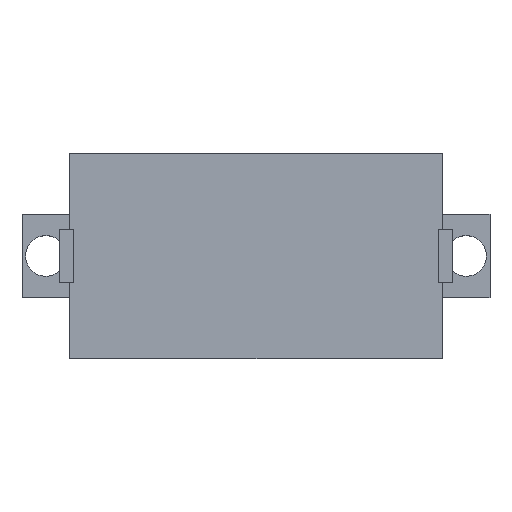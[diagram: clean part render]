
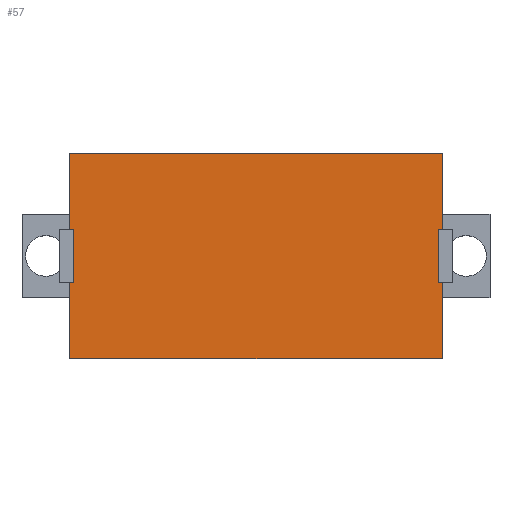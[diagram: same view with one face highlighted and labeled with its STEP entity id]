
A CAD part, top view. The second image highlights one B-rep face of the part: STEP entity #57.
In plain terms, the highlighted planar face has unit normal (0, 0, 1).
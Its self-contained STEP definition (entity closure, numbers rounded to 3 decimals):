
#21 = EDGE_CURVE('',#22,#24,#26,.T.);
#22 = VERTEX_POINT('',#23);
#23 = CARTESIAN_POINT('',(-15.6,-3.225,157.225));
#24 = VERTEX_POINT('',#25);
#25 = CARTESIAN_POINT('',(-15.6,1.875,157.225));
#26 = LINE('',#27,#28);
#27 = CARTESIAN_POINT('',(-15.6,-3.225,157.225));
#28 = VECTOR('',#29,1.);
#29 = DIRECTION('',(0.,1.,0.));
#57 = ADVANCED_FACE('',(#58),#179,.T.);
#58 = FACE_BOUND('',#59,.T.);
#59 = EDGE_LOOP('',(#60,#61,#69,#77,#85,#93,#101,#109,#117,#125,#133,
    #141,#149,#157,#165,#173));
#60 = ORIENTED_EDGE('',*,*,#21,.F.);
#61 = ORIENTED_EDGE('',*,*,#62,.T.);
#62 = EDGE_CURVE('',#22,#63,#65,.T.);
#63 = VERTEX_POINT('',#64);
#64 = CARTESIAN_POINT('',(15.6,-3.225,157.225));
#65 = LINE('',#66,#67);
#66 = CARTESIAN_POINT('',(-15.6,-3.225,157.225));
#67 = VECTOR('',#68,1.);
#68 = DIRECTION('',(1.,0.,0.));
#69 = ORIENTED_EDGE('',*,*,#70,.T.);
#70 = EDGE_CURVE('',#63,#71,#73,.T.);
#71 = VERTEX_POINT('',#72);
#72 = CARTESIAN_POINT('',(15.6,1.875,157.225));
#73 = LINE('',#74,#75);
#74 = CARTESIAN_POINT('',(15.6,-3.225,157.225));
#75 = VECTOR('',#76,1.);
#76 = DIRECTION('',(0.,1.,0.));
#77 = ORIENTED_EDGE('',*,*,#78,.T.);
#78 = EDGE_CURVE('',#71,#79,#81,.T.);
#79 = VERTEX_POINT('',#80);
#80 = CARTESIAN_POINT('',(15.6,3.135,157.225));
#81 = LINE('',#82,#83);
#82 = CARTESIAN_POINT('',(15.6,-3.225,157.225));
#83 = VECTOR('',#84,1.);
#84 = DIRECTION('',(0.,1.,0.));
#85 = ORIENTED_EDGE('',*,*,#86,.T.);
#86 = EDGE_CURVE('',#79,#87,#89,.T.);
#87 = VERTEX_POINT('',#88);
#88 = CARTESIAN_POINT('',(15.3,3.135,157.225));
#89 = LINE('',#90,#91);
#90 = CARTESIAN_POINT('',(-0.15,3.135,157.225));
#91 = VECTOR('',#92,1.);
#92 = DIRECTION('',(-1.,0.,0.));
#93 = ORIENTED_EDGE('',*,*,#94,.T.);
#94 = EDGE_CURVE('',#87,#95,#97,.T.);
#95 = VERTEX_POINT('',#96);
#96 = CARTESIAN_POINT('',(15.3,7.615,157.225));
#97 = LINE('',#98,#99);
#98 = CARTESIAN_POINT('',(15.3,-0.045,157.225));
#99 = VECTOR('',#100,1.);
#100 = DIRECTION('',(0.,1.,0.));
#101 = ORIENTED_EDGE('',*,*,#102,.F.);
#102 = EDGE_CURVE('',#103,#95,#105,.T.);
#103 = VERTEX_POINT('',#104);
#104 = CARTESIAN_POINT('',(15.6,7.615,157.225));
#105 = LINE('',#106,#107);
#106 = CARTESIAN_POINT('',(-0.15,7.615,157.225));
#107 = VECTOR('',#108,1.);
#108 = DIRECTION('',(-1.,0.,0.));
#109 = ORIENTED_EDGE('',*,*,#110,.T.);
#110 = EDGE_CURVE('',#103,#111,#113,.T.);
#111 = VERTEX_POINT('',#112);
#112 = CARTESIAN_POINT('',(15.6,8.875,157.225));
#113 = LINE('',#114,#115);
#114 = CARTESIAN_POINT('',(15.6,-3.225,157.225));
#115 = VECTOR('',#116,1.);
#116 = DIRECTION('',(0.,1.,0.));
#117 = ORIENTED_EDGE('',*,*,#118,.T.);
#118 = EDGE_CURVE('',#111,#119,#121,.T.);
#119 = VERTEX_POINT('',#120);
#120 = CARTESIAN_POINT('',(15.6,13.975,157.225));
#121 = LINE('',#122,#123);
#122 = CARTESIAN_POINT('',(15.6,-3.225,157.225));
#123 = VECTOR('',#124,1.);
#124 = DIRECTION('',(0.,1.,0.));
#125 = ORIENTED_EDGE('',*,*,#126,.F.);
#126 = EDGE_CURVE('',#127,#119,#129,.T.);
#127 = VERTEX_POINT('',#128);
#128 = CARTESIAN_POINT('',(-15.6,13.975,157.225));
#129 = LINE('',#130,#131);
#130 = CARTESIAN_POINT('',(-15.6,13.975,157.225));
#131 = VECTOR('',#132,1.);
#132 = DIRECTION('',(1.,0.,0.));
#133 = ORIENTED_EDGE('',*,*,#134,.F.);
#134 = EDGE_CURVE('',#135,#127,#137,.T.);
#135 = VERTEX_POINT('',#136);
#136 = CARTESIAN_POINT('',(-15.6,8.875,157.225));
#137 = LINE('',#138,#139);
#138 = CARTESIAN_POINT('',(-15.6,-3.225,157.225));
#139 = VECTOR('',#140,1.);
#140 = DIRECTION('',(0.,1.,0.));
#141 = ORIENTED_EDGE('',*,*,#142,.F.);
#142 = EDGE_CURVE('',#143,#135,#145,.T.);
#143 = VERTEX_POINT('',#144);
#144 = CARTESIAN_POINT('',(-15.6,7.615,157.225));
#145 = LINE('',#146,#147);
#146 = CARTESIAN_POINT('',(-15.6,-3.225,157.225));
#147 = VECTOR('',#148,1.);
#148 = DIRECTION('',(0.,1.,0.));
#149 = ORIENTED_EDGE('',*,*,#150,.F.);
#150 = EDGE_CURVE('',#151,#143,#153,.T.);
#151 = VERTEX_POINT('',#152);
#152 = CARTESIAN_POINT('',(-15.3,7.615,157.225));
#153 = LINE('',#154,#155);
#154 = CARTESIAN_POINT('',(-16.05,7.615,157.225));
#155 = VECTOR('',#156,1.);
#156 = DIRECTION('',(-1.,0.,0.));
#157 = ORIENTED_EDGE('',*,*,#158,.F.);
#158 = EDGE_CURVE('',#159,#151,#161,.T.);
#159 = VERTEX_POINT('',#160);
#160 = CARTESIAN_POINT('',(-15.3,3.135,157.225));
#161 = LINE('',#162,#163);
#162 = CARTESIAN_POINT('',(-15.3,-0.045,157.225));
#163 = VECTOR('',#164,1.);
#164 = DIRECTION('',(0.,1.,0.));
#165 = ORIENTED_EDGE('',*,*,#166,.T.);
#166 = EDGE_CURVE('',#159,#167,#169,.T.);
#167 = VERTEX_POINT('',#168);
#168 = CARTESIAN_POINT('',(-15.6,3.135,157.225));
#169 = LINE('',#170,#171);
#170 = CARTESIAN_POINT('',(-16.05,3.135,157.225));
#171 = VECTOR('',#172,1.);
#172 = DIRECTION('',(-1.,0.,0.));
#173 = ORIENTED_EDGE('',*,*,#174,.F.);
#174 = EDGE_CURVE('',#24,#167,#175,.T.);
#175 = LINE('',#176,#177);
#176 = CARTESIAN_POINT('',(-15.6,-3.225,157.225));
#177 = VECTOR('',#178,1.);
#178 = DIRECTION('',(0.,1.,0.));
#179 = PLANE('',#180);
#180 = AXIS2_PLACEMENT_3D('',#181,#182,#183);
#181 = CARTESIAN_POINT('',(-15.6,-3.225,157.225));
#182 = DIRECTION('',(0.,0.,1.));
#183 = DIRECTION('',(1.,0.,0.));
